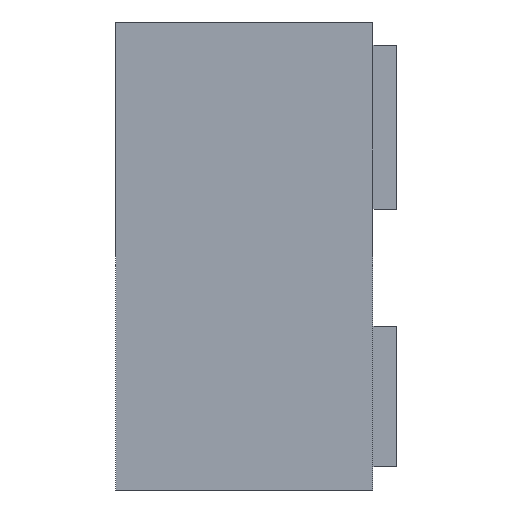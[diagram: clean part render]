
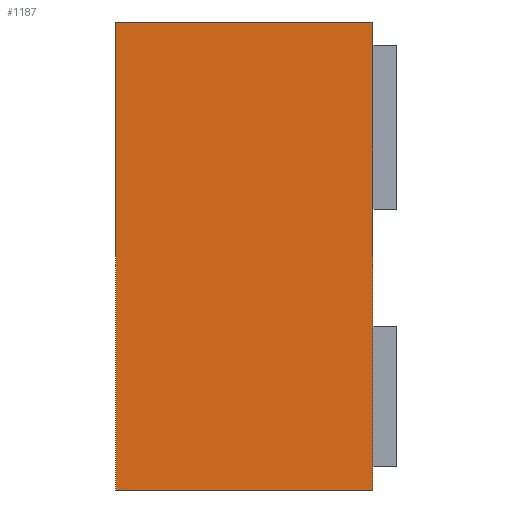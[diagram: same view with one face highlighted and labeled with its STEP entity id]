
A CAD part, left-side view. The second image highlights one B-rep face of the part: STEP entity #1187.
In plain terms, the highlighted planar face has unit normal (-1, 0, 0).
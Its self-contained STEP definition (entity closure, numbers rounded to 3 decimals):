
#1148 = CARTESIAN_POINT ( 'NONE',  ( -0.725, 0.05, -0.5 ) ) ;
#1149 = VERTEX_POINT ( 'NONE', #1148 ) ;
#1150 = CARTESIAN_POINT ( 'NONE',  ( -0.725, 0.05, 0.5 ) ) ;
#1151 = VERTEX_POINT ( 'NONE', #1150 ) ;
#1152 = CARTESIAN_POINT ( 'NONE',  ( -0.725, 0.05, 0.5 ) ) ;
#1153 = DIRECTION ( 'NONE',  ( 0., 0., 1. ) ) ;
#1154 = VECTOR ( 'NONE', #1153, 1000. ) ;
#1155 = LINE ( 'NONE', #1152, #1154 ) ;
#1156 = EDGE_CURVE ( 'NONE', #1149, #1151, #1155, .T. ) ;
#1157 = ORIENTED_EDGE ( 'NONE', *, *, #1156, .T. ) ;
#1158 = CARTESIAN_POINT ( 'NONE',  ( -0.725, 0.6, 0.5 ) ) ;
#1159 = VERTEX_POINT ( 'NONE', #1158 ) ;
#1160 = CARTESIAN_POINT ( 'NONE',  ( -0.725, 0.6, 0.5 ) ) ;
#1161 = DIRECTION ( 'NONE',  ( 0., -1., 0. ) ) ;
#1162 = VECTOR ( 'NONE', #1161, 1000. ) ;
#1163 = LINE ( 'NONE', #1160, #1162 ) ;
#1164 = EDGE_CURVE ( 'NONE', #1159, #1151, #1163, .T. ) ;
#1165 = ORIENTED_EDGE ( 'NONE', *, *, #1164, .F. ) ;
#1166 = CARTESIAN_POINT ( 'NONE',  ( -0.725, 0.6, -0.5 ) ) ;
#1167 = VERTEX_POINT ( 'NONE', #1166 ) ;
#1168 = CARTESIAN_POINT ( 'NONE',  ( -0.725, 0.6, 0.5 ) ) ;
#1169 = DIRECTION ( 'NONE',  ( 0., 0., 1. ) ) ;
#1170 = VECTOR ( 'NONE', #1169, 1000. ) ;
#1171 = LINE ( 'NONE', #1168, #1170 ) ;
#1172 = EDGE_CURVE ( 'NONE', #1167, #1159, #1171, .T. ) ;
#1173 = ORIENTED_EDGE ( 'NONE', *, *, #1172, .F. ) ;
#1174 = CARTESIAN_POINT ( 'NONE',  ( -0.725, 0.6, -0.5 ) ) ;
#1175 = DIRECTION ( 'NONE',  ( 0., -1., 0. ) ) ;
#1176 = VECTOR ( 'NONE', #1175, 1000. ) ;
#1177 = LINE ( 'NONE', #1174, #1176 ) ;
#1178 = EDGE_CURVE ( 'NONE', #1167, #1149, #1177, .T. ) ;
#1179 = ORIENTED_EDGE ( 'NONE', *, *, #1178, .T. ) ;
#1180 = EDGE_LOOP ( 'NONE', ( #1157, #1165, #1173, #1179 ) ) ;
#1181 = FACE_OUTER_BOUND ( 'NONE', #1180, .T. ) ;
#1182 = CARTESIAN_POINT ( 'NONE',  ( -0.725, 0.6, 0.5 ) ) ;
#1183 = DIRECTION ( 'NONE',  ( 1., 0., 0. ) ) ;
#1184 = DIRECTION ( 'NONE',  ( 0., 0., -1. ) ) ;
#1185 = AXIS2_PLACEMENT_3D ( 'NONE', #1182, #1183, #1184 ) ;
#1186 = PLANE ( 'NONE', #1185 ) ;
#1187 = ADVANCED_FACE ( 'NONE', ( #1181 ), #1186, .F. ) ;
